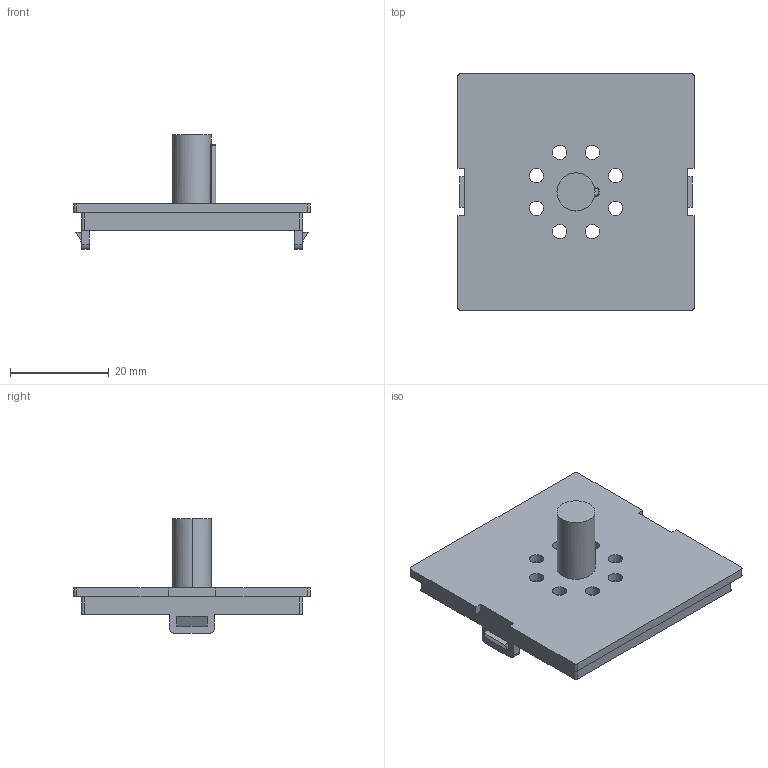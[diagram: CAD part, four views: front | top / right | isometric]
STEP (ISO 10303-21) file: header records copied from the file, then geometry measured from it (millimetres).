
FILE_DESCRIPTION (( 'STEP AP214' ), '1' );
FILE_NAME ('Tapa sense conectors PP50.STEP', '2018-07-02T09:04:52', ( 'aaa' ), ( '' ), 'SwSTEP 2.0', 'SolidWorks 2013', '' );
FILE_SCHEMA (( 'AUTOMOTIVE_DESIGN' ));
Length unit declared in the file: millimetre
Products named in the file (1): Tapa sense conectors PP50
Bounding box: 47.8 x 47.8 x 23.2 mm (x, y, z)
Volume: 6031.4 mm3; surface area: 7616.7 mm2
Topology: 1 solids, 1 shells, 130 faces, 318 edges, 211 vertices
Faces by surface type: cylinder 68, plane 60, torus 2
Entity records: 3949 total; most frequent: DIRECTION 717, CARTESIAN_POINT 670, ORIENTED_EDGE 636, EDGE_CURVE 318, AXIS2_PLACEMENT_3D 270, VERTEX_POINT 211, LINE 177, VECTOR 177
